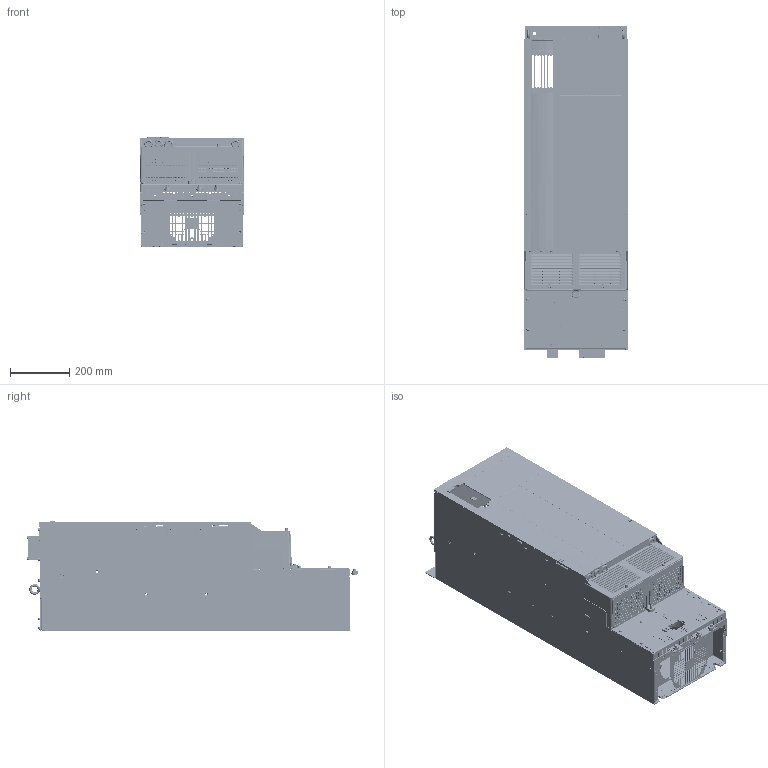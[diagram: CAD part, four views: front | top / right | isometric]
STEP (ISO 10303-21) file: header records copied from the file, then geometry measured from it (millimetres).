
FILE_DESCRIPTION((''),'2;1');
FILE_NAME('P454_D2_PRODUCTION_ASM','2017-03-06T',('u246244'),('Danfoss Power Electronics'),'CREO PARAMETRIC BY PTC INC, 2015480','CREO PARAMETRIC BY PTC INC, 2015480','');
FILE_SCHEMA(('CONFIG_CONTROL_DESIGN','GEOMETRIC_VALIDATION_PROPERTIES_MIM'));
Length unit declared in the file: millimetre
Products named in the file (86): 177G3904; FH-M6-12-ZI; S-M8-1-ZI; TPS-5MM-16; TPS-5MM-10; 177G3904_ASM; 177G3907; TPS-4MM-8; 177G3907_ASM; 177G4513; 26514; 177G4510; 177G4517; 177G3911; CAPS_D2_T5_P454_ASM; 26466; 177G8749; SS-M5-2-ZI; S-M4-2-ZI; 177G8749_ASM; 177G4900; 177G4900_ASM; 177G4901; 177G4901_ASM; SF-5-16-ZI; 177G8585_ASM; 175L8191; PENN-FH-M5-10-ZI; 175L8191_ASM; 26513; 177G8265; 177G8265_ASM; 177G5019; 177G8580; 177G4544; FH-M5-12-ZI; PEM-RAS-M4X9-ZI; 177G4544_ASM; 177G4835; 177G4835_ASM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
Assembly tree (234 placements, depth 5):
  P454_D2_PRODUCTION_ASM
    177G3904_ASM
      177G3904
      FH-M6-12-ZI  x10
      S-M8-1-ZI  x2
      TPS-5MM-16
      TPS-5MM-10  x2
    177G3907_ASM
      177G3907
      TPS-4MM-8  x4
    177G4513  x2
    26514  x6
    177G4510  x4
    177G4517  x2
    CAPS_D2_T5_P454_ASM
      177G3911
    26466  x2
    P454_D2_CH_ENCLOSURE_ASM
      177G8585_ASM
        177G8749_ASM
          177G8749
          SS-M5-2-ZI  x6
          S-M4-2-ZI  x2
        177G4900_ASM  x2
          177G4900
        177G4901_ASM
          177G4901
        SF-5-16-ZI  x6
      175L8191_ASM  x2
        175L8191
        PENN-FH-M5-10-ZI
      26513  x4
      177G8265_ASM
        177G8265
      177G5019
      177G8580  x2
      177G4840_ASM
        177G4544_ASM
          177G4544
          FH-M5-12-ZI
          SS-M5-2-ZI  x5
          TPS-5MM-10  x3
          PEM-RAS-M4X9-ZI
        177G4835_ASM
          177G4835
        SF-5-16-ZI  x5
      681X9143  x4
      177G4843_ASM
        177G4543_ASM
          177G4543
          SS-M5-2-ZI  x6
          FH-M5-12-ZI
          TPS-5MM-10  x3
          PEM-RAS-M4X9-ZI
        177G4834_ASM
          177G4834
        SF-5-16-ZI  x5
      177G3909
      177G4518  x5
      177G3914
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Bounding box: 350 x 1122.68 x 374.88 mm (x, y, z)
Volume: 6037486.7 mm3; surface area: 5193584.4 mm2
Topology: 212 solids, 212 shells, 20325 faces, 53969 edges, 34767 vertices
Faces by surface type: plane 13048, cylinder 4608, cone 1027, bspline 720, torus 568, sphere 279, revolution 64, extrusion 11
Entity records: 641789 total; most frequent: CARTESIAN_POINT 135450, ORIENTED_EDGE 85592, DIRECTION 78859, EDGE_CURVE 42796, PRESENTATION_STYLE_ASSIGNMENT 32741, STYLED_ITEM 32641, CURVE_STYLE 32318, VECTOR 31235
